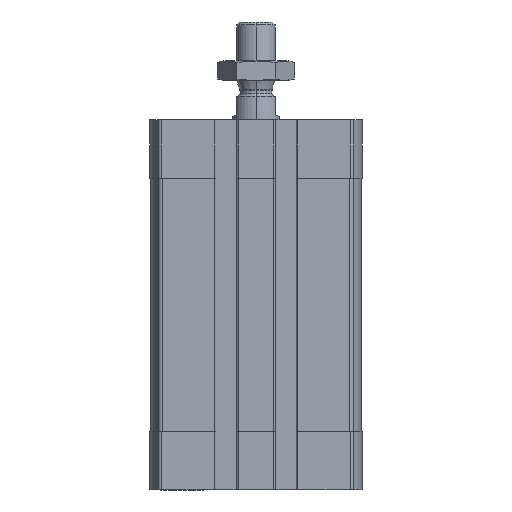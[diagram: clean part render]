
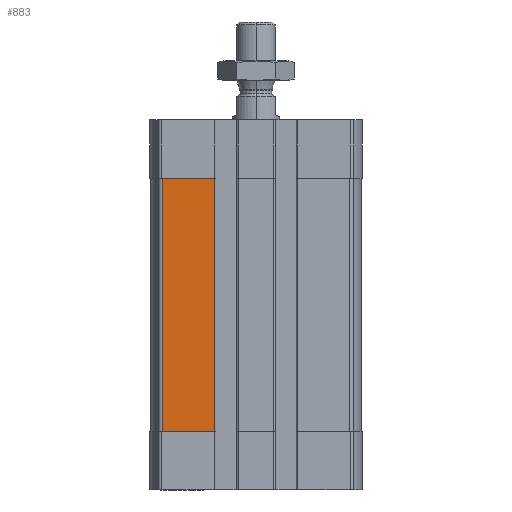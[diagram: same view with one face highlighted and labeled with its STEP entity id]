
A CAD part, left-side view. The second image highlights one B-rep face of the part: STEP entity #883.
In plain terms, the highlighted planar face has unit normal (-1, 0, 0).
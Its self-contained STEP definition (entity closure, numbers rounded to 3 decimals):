
#11 = EDGE_CURVE ( 'NONE', #5602, #15942, #1435, .T. ) ;
#28 = ORIENTED_EDGE ( 'NONE', *, *, #11, .T. ) ;
#883 = ADVANCED_FACE ( 'NONE', ( #9201 ), #13491, .T. ) ;
#1018 = CARTESIAN_POINT ( 'NONE',  ( -27., 24.093, -80. ) ) ;
#1180 = DIRECTION ( 'NONE',  ( 0., -1., 0. ) ) ;
#1435 = LINE ( 'NONE', #12313, #8072 ) ;
#2151 = AXIS2_PLACEMENT_3D ( 'NONE', #1018, #7284, #16102 ) ;
#2921 = LINE ( 'NONE', #14973, #9170 ) ;
#3187 = VECTOR ( 'NONE', #1180, 1000. ) ;
#3956 = LINE ( 'NONE', #12130, #13547 ) ;
#4087 = CARTESIAN_POINT ( 'NONE',  ( -27., 24.093, -80. ) ) ;
#4611 = DIRECTION ( 'NONE',  ( 0., 1., 0. ) ) ;
#4800 = DIRECTION ( 'NONE',  ( 0., 0., 1. ) ) ;
#5232 = ORIENTED_EDGE ( 'NONE', *, *, #5594, .T. ) ;
#5266 = ORIENTED_EDGE ( 'NONE', *, *, #15915, .T. ) ;
#5594 = EDGE_CURVE ( 'NONE', #15942, #10687, #3956, .T. ) ;
#5602 = VERTEX_POINT ( 'NONE', #13386 ) ;
#7284 = DIRECTION ( 'NONE',  ( -1., 0., 0. ) ) ;
#7540 = EDGE_CURVE ( 'NONE', #10813, #5602, #12804, .T. ) ;
#8072 = VECTOR ( 'NONE', #4800, 1000. ) ;
#8333 = EDGE_LOOP ( 'NONE', ( #11719, #28, #5232, #5266 ) ) ;
#8655 = CARTESIAN_POINT ( 'NONE',  ( -27., 24.093, -80. ) ) ;
#9170 = VECTOR ( 'NONE', #9945, 1000. ) ;
#9201 = FACE_OUTER_BOUND ( 'NONE', #8333, .T. ) ;
#9945 = DIRECTION ( 'NONE',  ( 0., 0., -1. ) ) ;
#10687 = VERTEX_POINT ( 'NONE', #15104 ) ;
#10813 = VERTEX_POINT ( 'NONE', #4087 ) ;
#11295 = CARTESIAN_POINT ( 'NONE',  ( -27., 10.7, -15. ) ) ;
#11719 = ORIENTED_EDGE ( 'NONE', *, *, #7540, .T. ) ;
#12130 = CARTESIAN_POINT ( 'NONE',  ( -27., 0., -15. ) ) ;
#12313 = CARTESIAN_POINT ( 'NONE',  ( -27., 10.7, -80. ) ) ;
#12804 = LINE ( 'NONE', #8655, #3187 ) ;
#13386 = CARTESIAN_POINT ( 'NONE',  ( -27., 10.7, -80. ) ) ;
#13491 = PLANE ( 'NONE',  #2151 ) ;
#13547 = VECTOR ( 'NONE', #4611, 1000. ) ;
#14973 = CARTESIAN_POINT ( 'NONE',  ( -27., 24.093, -80. ) ) ;
#15104 = CARTESIAN_POINT ( 'NONE',  ( -27., 24.093, -15. ) ) ;
#15915 = EDGE_CURVE ( 'NONE', #10687, #10813, #2921, .T. ) ;
#15942 = VERTEX_POINT ( 'NONE', #11295 ) ;
#16102 = DIRECTION ( 'NONE',  ( 0., 0., 1. ) ) ;
